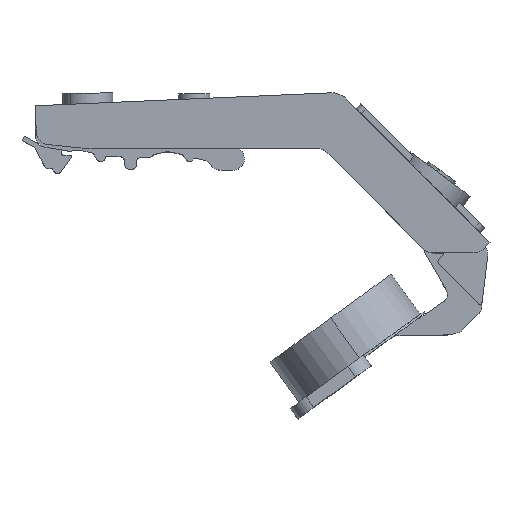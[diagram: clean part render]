
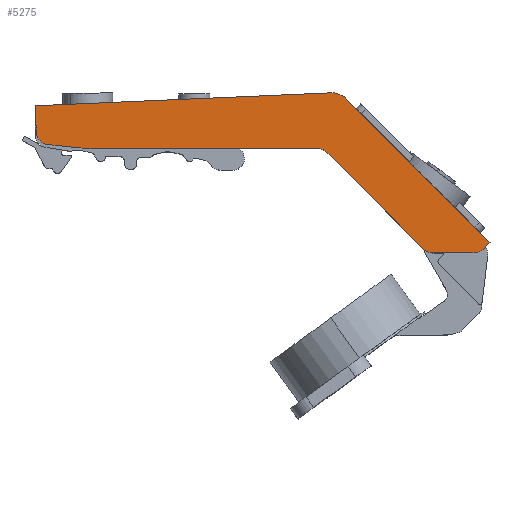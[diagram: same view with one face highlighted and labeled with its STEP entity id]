
A CAD part, top view. The second image highlights one B-rep face of the part: STEP entity #5275.
In plain terms, the highlighted planar face has unit normal (0, 0, 1).
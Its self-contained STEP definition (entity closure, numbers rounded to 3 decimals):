
#4 = DIRECTION ( 'NONE',  ( -0.707, 0.707, 0. ) ) ;
#32 = DIRECTION ( 'NONE',  ( 0.044, -0.999, 0. ) ) ;
#120 = DIRECTION ( 'NONE',  ( 0., 0., 1. ) ) ;
#123 = DIRECTION ( 'NONE',  ( 1., 0., 0. ) ) ;
#200 = AXIS2_PLACEMENT_3D ( 'NONE', #2321, #236, #4125 ) ;
#236 = DIRECTION ( 'NONE',  ( 0., 0., 1. ) ) ;
#281 = AXIS2_PLACEMENT_3D ( 'NONE', #5243, #1508, #3638 ) ;
#286 = CARTESIAN_POINT ( 'NONE',  ( -60.95, -9.317, 8.8 ) ) ;
#325 = ORIENTED_EDGE ( 'NONE', *, *, #4067, .T. ) ;
#369 = LINE ( 'NONE', #3703, #3163 ) ;
#372 = ORIENTED_EDGE ( 'NONE', *, *, #1954, .F. ) ;
#405 = VERTEX_POINT ( 'NONE', #1141 ) ;
#442 = ORIENTED_EDGE ( 'NONE', *, *, #5014, .T. ) ;
#531 = DIRECTION ( 'NONE',  ( 0., 0., -1. ) ) ;
#639 = CIRCLE ( 'NONE', #200, 3. ) ;
#690 = LINE ( 'NONE', #1889, #2123 ) ;
#707 = CIRCLE ( 'NONE', #2114, 3. ) ;
#718 = VECTOR ( 'NONE', #5215, 1000. ) ;
#754 = FACE_OUTER_BOUND ( 'NONE', #3285, .T. ) ;
#766 = CARTESIAN_POINT ( 'NONE',  ( -64.085, -9.153, 8.8 ) ) ;
#776 = DIRECTION ( 'NONE',  ( 1., 0., 0. ) ) ;
#958 = VERTEX_POINT ( 'NONE', #2283 ) ;
#1042 = ORIENTED_EDGE ( 'NONE', *, *, #3590, .T. ) ;
#1054 = DIRECTION ( 'NONE',  ( -1., 0., 0. ) ) ;
#1067 = EDGE_CURVE ( 'NONE', #2946, #4459, #707, .T. ) ;
#1141 = CARTESIAN_POINT ( 'NONE',  ( -5.798, 3.631, 8.8 ) ) ;
#1240 = DIRECTION ( 'NONE',  ( 0., 0., 1. ) ) ;
#1300 = AXIS2_PLACEMENT_3D ( 'NONE', #1368, #4775, #2706 ) ;
#1303 = VECTOR ( 'NONE', #1054, 1000. ) ;
#1353 = ORIENTED_EDGE ( 'NONE', *, *, #2632, .T. ) ;
#1368 = CARTESIAN_POINT ( 'NONE',  ( -60.95, 20.683, 8.8 ) ) ;
#1369 = CARTESIAN_POINT ( 'NONE',  ( 15.853, -32.696, 8.8 ) ) ;
#1400 = ORIENTED_EDGE ( 'NONE', *, *, #4202, .T. ) ;
#1402 = DIRECTION ( 'NONE',  ( 1., 0., 0. ) ) ;
#1481 = EDGE_CURVE ( 'NONE', #1787, #5319, #3652, .T. ) ;
#1506 = DIRECTION ( 'NONE',  ( -0.707, -0.707, 0. ) ) ;
#1508 = DIRECTION ( 'NONE',  ( 0., 0., 1. ) ) ;
#1540 = CARTESIAN_POINT ( 'NONE',  ( -74.46, 0.633, 8.8 ) ) ;
#1541 = CARTESIAN_POINT ( 'NONE',  ( -2.044, 2.171, 8.8 ) ) ;
#1562 = VERTEX_POINT ( 'NONE', #2354 ) ;
#1588 = CARTESIAN_POINT ( 'NONE',  ( 27.509, -33.575, 8.8 ) ) ;
#1684 = ORIENTED_EDGE ( 'NONE', *, *, #4034, .T. ) ;
#1787 = VERTEX_POINT ( 'NONE', #766 ) ;
#1844 = AXIS2_PLACEMENT_3D ( 'NONE', #4058, #2398, #2453 ) ;
#1889 = CARTESIAN_POINT ( 'NONE',  ( -71.514, -8.372, 8.8 ) ) ;
#1893 = ORIENTED_EDGE ( 'NONE', *, *, #1067, .T. ) ;
#1906 = DIRECTION ( 'NONE',  ( 0.707, -0.707, 0. ) ) ;
#1954 = EDGE_CURVE ( 'NONE', #2946, #4668, #4066, .T. ) ;
#1960 = CARTESIAN_POINT ( 'NONE',  ( -71.514, -8.372, 8.8 ) ) ;
#1976 = ORIENTED_EDGE ( 'NONE', *, *, #3764, .T. ) ;
#2017 = PLANE ( 'NONE',  #1844 ) ;
#2114 = AXIS2_PLACEMENT_3D ( 'NONE', #2203, #120, #1402 ) ;
#2123 = VECTOR ( 'NONE', #2356, 1000. ) ;
#2203 = CARTESIAN_POINT ( 'NONE',  ( 27.509, -30.575, 8.8 ) ) ;
#2218 = CIRCLE ( 'NONE', #2572, 3. ) ;
#2283 = CARTESIAN_POINT ( 'NONE',  ( -6.648, -10.196, 8.8 ) ) ;
#2305 = CARTESIAN_POINT ( 'NONE',  ( -5.798, 3.631, 8.8 ) ) ;
#2321 = CARTESIAN_POINT ( 'NONE',  ( -71.2, -5.389, 8.8 ) ) ;
#2348 = LINE ( 'NONE', #4448, #2565 ) ;
#2354 = CARTESIAN_POINT ( 'NONE',  ( 31.227, -31.1, 8.8 ) ) ;
#2356 = DIRECTION ( 'NONE',  ( 0.995, -0.105, 0. ) ) ;
#2398 = DIRECTION ( 'NONE',  ( 0., 0., 1. ) ) ;
#2453 = DIRECTION ( 'NONE',  ( 1., 0., 0. ) ) ;
#2471 = VECTOR ( 'NONE', #1506, 1000. ) ;
#2476 = CIRCLE ( 'NONE', #281, 3. ) ;
#2565 = VECTOR ( 'NONE', #1906, 1000. ) ;
#2572 = AXIS2_PLACEMENT_3D ( 'NONE', #3453, #531, #123 ) ;
#2595 = ORIENTED_EDGE ( 'NONE', *, *, #4898, .T. ) ;
#2619 = ORIENTED_EDGE ( 'NONE', *, *, #4032, .F. ) ;
#2632 = EDGE_CURVE ( 'NONE', #1562, #4139, #3266, .T. ) ;
#2706 = DIRECTION ( 'NONE',  ( 1., 0., 0. ) ) ;
#2732 = VERTEX_POINT ( 'NONE', #1369 ) ;
#2916 = LINE ( 'NONE', #4577, #5158 ) ;
#2942 = CARTESIAN_POINT ( 'NONE',  ( -5.58, -1.364, 8.8 ) ) ;
#2946 = VERTEX_POINT ( 'NONE', #1588 ) ;
#2968 = DIRECTION ( 'NONE',  ( 1., 0., 0. ) ) ;
#3150 = CARTESIAN_POINT ( 'NONE',  ( 28.752, -33.575, 8.8 ) ) ;
#3163 = VECTOR ( 'NONE', #32, 1000. ) ;
#3169 = CARTESIAN_POINT ( 'NONE',  ( 28.752, -33.575, 8.8 ) ) ;
#3249 = VERTEX_POINT ( 'NONE', #1960 ) ;
#3266 = LINE ( 'NONE', #3699, #5266 ) ;
#3285 = EDGE_LOOP ( 'NONE', ( #325, #1400, #442, #1684, #3556, #4074, #1042, #2595, #4212, #372, #1893, #2619, #1353, #1976 ) ) ;
#3453 = CARTESIAN_POINT ( 'NONE',  ( -8.769, -12.317, 8.8 ) ) ;
#3551 = LINE ( 'NONE', #2305, #718 ) ;
#3556 = ORIENTED_EDGE ( 'NONE', *, *, #1481, .T. ) ;
#3590 = EDGE_CURVE ( 'NONE', #5298, #958, #2218, .T. ) ;
#3638 = DIRECTION ( 'NONE',  ( 1., 0., 0. ) ) ;
#3652 = CIRCLE ( 'NONE', #1300, 30. ) ;
#3674 = VERTEX_POINT ( 'NONE', #1540 ) ;
#3693 = CARTESIAN_POINT ( 'NONE',  ( 17.974, -33.575, 8.8 ) ) ;
#3699 = CARTESIAN_POINT ( 'NONE',  ( 21.766, -21.639, 8.8 ) ) ;
#3703 = CARTESIAN_POINT ( 'NONE',  ( -74.46, 0.633, 8.8 ) ) ;
#3764 = EDGE_CURVE ( 'NONE', #4139, #405, #4144, .T. ) ;
#3831 = EDGE_CURVE ( 'NONE', #5319, #5298, #2916, .T. ) ;
#3995 = LINE ( 'NONE', #3150, #2471 ) ;
#4032 = EDGE_CURVE ( 'NONE', #1562, #4459, #3995, .T. ) ;
#4034 = EDGE_CURVE ( 'NONE', #3249, #1787, #690, .T. ) ;
#4058 = CARTESIAN_POINT ( 'NONE',  ( -70.65, -5.389, 8.8 ) ) ;
#4066 = LINE ( 'NONE', #3169, #1303 ) ;
#4067 = EDGE_CURVE ( 'NONE', #405, #3674, #3551, .T. ) ;
#4074 = ORIENTED_EDGE ( 'NONE', *, *, #3831, .T. ) ;
#4125 = DIRECTION ( 'NONE',  ( 1., 0., 0. ) ) ;
#4139 = VERTEX_POINT ( 'NONE', #1541 ) ;
#4144 = CIRCLE ( 'NONE', #4309, 5. ) ;
#4202 = EDGE_CURVE ( 'NONE', #3674, #4895, #369, .T. ) ;
#4212 = ORIENTED_EDGE ( 'NONE', *, *, #4559, .T. ) ;
#4309 = AXIS2_PLACEMENT_3D ( 'NONE', #2942, #1240, #776 ) ;
#4448 = CARTESIAN_POINT ( 'NONE',  ( -7.526, -9.317, 8.8 ) ) ;
#4459 = VERTEX_POINT ( 'NONE', #5326 ) ;
#4559 = EDGE_CURVE ( 'NONE', #2732, #4668, #2476, .T. ) ;
#4577 = CARTESIAN_POINT ( 'NONE',  ( -60.4, -9.317, 8.8 ) ) ;
#4668 = VERTEX_POINT ( 'NONE', #3693 ) ;
#4775 = DIRECTION ( 'NONE',  ( 0., 0., 1. ) ) ;
#4895 = VERTEX_POINT ( 'NONE', #5232 ) ;
#4898 = EDGE_CURVE ( 'NONE', #958, #2732, #2348, .T. ) ;
#5014 = EDGE_CURVE ( 'NONE', #4895, #3249, #639, .T. ) ;
#5158 = VECTOR ( 'NONE', #2968, 1000. ) ;
#5215 = DIRECTION ( 'NONE',  ( -0.999, -0.044, 0. ) ) ;
#5232 = CARTESIAN_POINT ( 'NONE',  ( -74.183, -5.709, 8.8 ) ) ;
#5243 = CARTESIAN_POINT ( 'NONE',  ( 17.974, -30.575, 8.8 ) ) ;
#5266 = VECTOR ( 'NONE', #4, 1000. ) ;
#5275 = ADVANCED_FACE ( 'NONE', ( #754 ), #2017, .T. ) ;
#5298 = VERTEX_POINT ( 'NONE', #5364 ) ;
#5319 = VERTEX_POINT ( 'NONE', #286 ) ;
#5326 = CARTESIAN_POINT ( 'NONE',  ( 29.631, -32.696, 8.8 ) ) ;
#5364 = CARTESIAN_POINT ( 'NONE',  ( -8.769, -9.317, 8.8 ) ) ;
